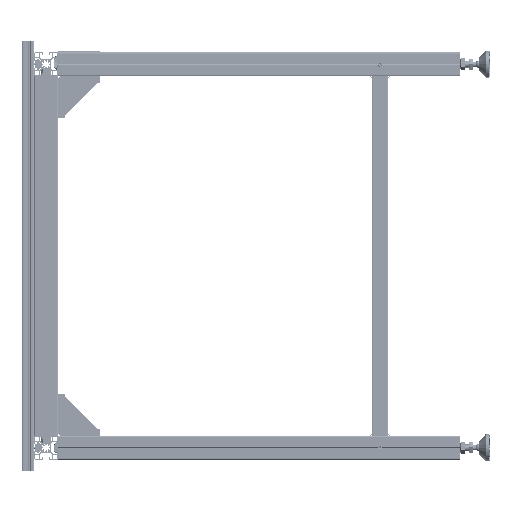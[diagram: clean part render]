
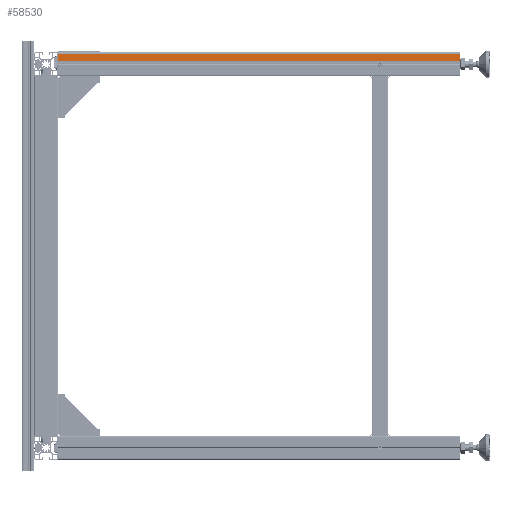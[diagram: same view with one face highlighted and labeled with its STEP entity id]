
A CAD part, left-side view. The second image highlights one B-rep face of the part: STEP entity #58530.
In plain terms, the highlighted planar face has unit normal (-1, 0, 0).
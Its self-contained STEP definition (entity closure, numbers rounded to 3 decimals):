
#808 = VECTOR ( 'NONE', #33554, 1000. ) ;
#1891 = CARTESIAN_POINT ( 'NONE',  ( -22.5, -6.1, 0. ) ) ;
#2645 = ORIENTED_EDGE ( 'NONE', *, *, #37726, .T. ) ;
#3036 = LINE ( 'NONE', #17292, #48234 ) ;
#8442 = CARTESIAN_POINT ( 'NONE',  ( -22.5, -20., 0. ) ) ;
#9370 = DIRECTION ( 'NONE',  ( 0., -1., 0. ) ) ;
#9382 = ORIENTED_EDGE ( 'NONE', *, *, #83346, .F. ) ;
#9693 = EDGE_CURVE ( 'NONE', #77537, #54122, #55160, .T. ) ;
#9727 = DIRECTION ( 'NONE',  ( 0., -1., 0. ) ) ;
#10539 = VECTOR ( 'NONE', #9370, 1000. ) ;
#15709 = VECTOR ( 'NONE', #21059, 1000. ) ;
#17292 = CARTESIAN_POINT ( 'NONE',  ( -22.5, -20., -750. ) ) ;
#21059 = DIRECTION ( 'NONE',  ( 0., -1., 0. ) ) ;
#22724 = LINE ( 'NONE', #37927, #10539 ) ;
#23982 = CARTESIAN_POINT ( 'NONE',  ( -22.5, 0., -750. ) ) ;
#30030 = CARTESIAN_POINT ( 'NONE',  ( -22.5, -6.1, -750. ) ) ;
#31343 = FACE_OUTER_BOUND ( 'NONE', #77620, .T. ) ;
#32983 = CARTESIAN_POINT ( 'NONE',  ( -22.5, -20., -750. ) ) ;
#33554 = DIRECTION ( 'NONE',  ( 0., 0., 1. ) ) ;
#34918 = VERTEX_POINT ( 'NONE', #8442 ) ;
#37726 = EDGE_CURVE ( 'NONE', #83781, #34918, #3036, .T. ) ;
#37927 = CARTESIAN_POINT ( 'NONE',  ( -22.5, 0., -750. ) ) ;
#38273 = PLANE ( 'NONE',  #38624 ) ;
#38449 = DIRECTION ( 'NONE',  ( 0., 0., 1. ) ) ;
#38624 = AXIS2_PLACEMENT_3D ( 'NONE', #23982, #72816, #9727 ) ;
#41343 = CARTESIAN_POINT ( 'NONE',  ( -22.5, -6.1, -750. ) ) ;
#44167 = EDGE_CURVE ( 'NONE', #77537, #83781, #22724, .T. ) ;
#48234 = VECTOR ( 'NONE', #38449, 1000. ) ;
#53037 = LINE ( 'NONE', #68669, #15709 ) ;
#54122 = VERTEX_POINT ( 'NONE', #1891 ) ;
#55160 = LINE ( 'NONE', #41343, #808 ) ;
#56439 = ORIENTED_EDGE ( 'NONE', *, *, #9693, .F. ) ;
#58530 = ADVANCED_FACE ( 'NONE', ( #31343 ), #38273, .T. ) ;
#68669 = CARTESIAN_POINT ( 'NONE',  ( -22.5, 0., 0. ) ) ;
#72816 = DIRECTION ( 'NONE',  ( -1., 0., 0. ) ) ;
#77537 = VERTEX_POINT ( 'NONE', #30030 ) ;
#77620 = EDGE_LOOP ( 'NONE', ( #9382, #56439, #77653, #2645 ) ) ;
#77653 = ORIENTED_EDGE ( 'NONE', *, *, #44167, .T. ) ;
#83346 = EDGE_CURVE ( 'NONE', #54122, #34918, #53037, .T. ) ;
#83781 = VERTEX_POINT ( 'NONE', #32983 ) ;
